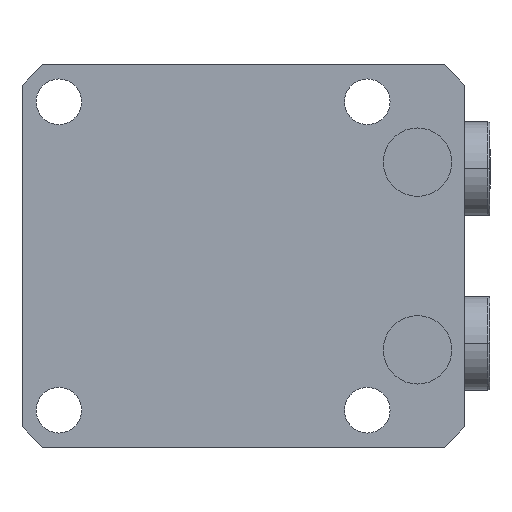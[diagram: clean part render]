
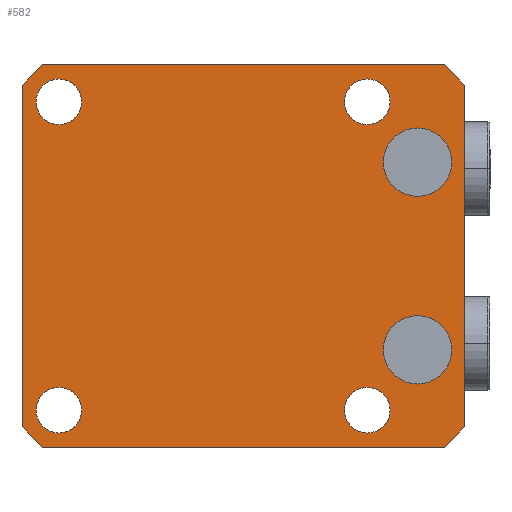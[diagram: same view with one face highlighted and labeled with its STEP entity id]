
A CAD part, front view. The second image highlights one B-rep face of the part: STEP entity #582.
In plain terms, the highlighted planar face has unit normal (0, -1, 0).
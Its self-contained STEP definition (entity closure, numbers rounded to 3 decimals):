
#216=PLANE('',#4747);
#296=FACE_BOUND('',#1082,.T.);
#297=FACE_BOUND('',#1083,.T.);
#298=FACE_BOUND('',#1084,.T.);
#299=FACE_BOUND('',#1085,.T.);
#300=FACE_BOUND('',#1086,.T.);
#301=FACE_BOUND('',#1087,.T.);
#302=FACE_BOUND('',#1088,.T.);
#582=ADVANCED_FACE('',(#296,#297,#298,#299,#300,#301,#302),#216,.T.);
#1082=EDGE_LOOP('',(#2505,#2506));
#1083=EDGE_LOOP('',(#2507,#2508));
#1084=EDGE_LOOP('',(#2509,#2510));
#1085=EDGE_LOOP('',(#2511,#2512));
#1086=EDGE_LOOP('',(#2513,#2514));
#1087=EDGE_LOOP('',(#2515,#2516));
#1088=EDGE_LOOP('',(#2517,#2518,#2519,#2520,#2521,#2522,#2523,#2524));
#1384=LINE('',#7073,#1716);
#1405=LINE('',#7456,#1737);
#1406=LINE('',#7459,#1738);
#1407=LINE('',#7461,#1739);
#1408=LINE('',#7463,#1740);
#1409=LINE('',#7464,#1741);
#1410=LINE('',#7466,#1742);
#1411=LINE('',#7468,#1743);
#1716=VECTOR('',#5626,1.);
#1737=VECTOR('',#5691,1.);
#1738=VECTOR('',#5692,1.);
#1739=VECTOR('',#5693,1.);
#1740=VECTOR('',#5694,1.);
#1741=VECTOR('',#5695,1.);
#1742=VECTOR('',#5696,1.);
#1743=VECTOR('',#5697,1.);
#2505=ORIENTED_EDGE('',*,*,#3943,.F.);
#2506=ORIENTED_EDGE('',*,*,#3814,.F.);
#2507=ORIENTED_EDGE('',*,*,#3944,.F.);
#2508=ORIENTED_EDGE('',*,*,#3818,.F.);
#2509=ORIENTED_EDGE('',*,*,#3922,.T.);
#2510=ORIENTED_EDGE('',*,*,#3852,.T.);
#2511=ORIENTED_EDGE('',*,*,#3918,.T.);
#2512=ORIENTED_EDGE('',*,*,#3860,.T.);
#2513=ORIENTED_EDGE('',*,*,#3916,.T.);
#2514=ORIENTED_EDGE('',*,*,#3864,.T.);
#2515=ORIENTED_EDGE('',*,*,#3920,.T.);
#2516=ORIENTED_EDGE('',*,*,#3856,.T.);
#2517=ORIENTED_EDGE('',*,*,#3945,.F.);
#2518=ORIENTED_EDGE('',*,*,#3946,.T.);
#2519=ORIENTED_EDGE('',*,*,#3947,.F.);
#2520=ORIENTED_EDGE('',*,*,#3948,.T.);
#2521=ORIENTED_EDGE('',*,*,#3880,.F.);
#2522=ORIENTED_EDGE('',*,*,#3949,.T.);
#2523=ORIENTED_EDGE('',*,*,#3950,.F.);
#2524=ORIENTED_EDGE('',*,*,#3951,.T.);
#3320=VERTEX_POINT('',#6912);
#3321=VERTEX_POINT('',#6914);
#3324=VERTEX_POINT('',#6921);
#3325=VERTEX_POINT('',#6923);
#3354=VERTEX_POINT('',#7001);
#3355=VERTEX_POINT('',#7002);
#3358=VERTEX_POINT('',#7010);
#3359=VERTEX_POINT('',#7011);
#3362=VERTEX_POINT('',#7019);
#3363=VERTEX_POINT('',#7020);
#3366=VERTEX_POINT('',#7028);
#3367=VERTEX_POINT('',#7029);
#3382=VERTEX_POINT('',#7074);
#3383=VERTEX_POINT('',#7075);
#3423=VERTEX_POINT('',#7457);
#3424=VERTEX_POINT('',#7458);
#3425=VERTEX_POINT('',#7460);
#3426=VERTEX_POINT('',#7462);
#3427=VERTEX_POINT('',#7465);
#3428=VERTEX_POINT('',#7467);
#3814=EDGE_CURVE('',#3320,#3321,#4330,.T.);
#3818=EDGE_CURVE('',#3324,#3325,#4332,.T.);
#3852=EDGE_CURVE('',#3354,#3355,#4346,.T.);
#3856=EDGE_CURVE('',#3358,#3359,#4348,.T.);
#3860=EDGE_CURVE('',#3362,#3363,#4350,.T.);
#3864=EDGE_CURVE('',#3366,#3367,#4352,.T.);
#3880=EDGE_CURVE('',#3382,#3383,#1384,.T.);
#3916=EDGE_CURVE('',#3367,#3366,#4358,.T.);
#3918=EDGE_CURVE('',#3363,#3362,#4360,.T.);
#3920=EDGE_CURVE('',#3359,#3358,#4362,.T.);
#3922=EDGE_CURVE('',#3355,#3354,#4364,.T.);
#3943=EDGE_CURVE('',#3321,#3320,#4367,.T.);
#3944=EDGE_CURVE('',#3325,#3324,#4368,.T.);
#3945=EDGE_CURVE('',#3423,#3424,#1405,.T.);
#3946=EDGE_CURVE('',#3423,#3425,#1406,.T.);
#3947=EDGE_CURVE('',#3426,#3425,#1407,.T.);
#3948=EDGE_CURVE('',#3426,#3383,#1408,.T.);
#3949=EDGE_CURVE('',#3382,#3427,#1409,.T.);
#3950=EDGE_CURVE('',#3428,#3427,#1410,.T.);
#3951=EDGE_CURVE('',#3428,#3424,#1411,.T.);
#4330=CIRCLE('',#4681,5.1);
#4332=CIRCLE('',#4684,5.1);
#4346=CIRCLE('',#4708,3.4);
#4348=CIRCLE('',#4711,3.4);
#4350=CIRCLE('',#4714,3.4);
#4352=CIRCLE('',#4717,3.4);
#4358=CIRCLE('',#4731,3.4);
#4360=CIRCLE('',#4734,3.4);
#4362=CIRCLE('',#4737,3.4);
#4364=CIRCLE('',#4740,3.4);
#4367=CIRCLE('',#4745,5.1);
#4368=CIRCLE('',#4746,5.1);
#4681=AXIS2_PLACEMENT_3D('',#6913,#5501,#5502);
#4684=AXIS2_PLACEMENT_3D('',#6922,#5509,#5510);
#4708=AXIS2_PLACEMENT_3D('',#7000,#5576,#5577);
#4711=AXIS2_PLACEMENT_3D('',#7009,#5584,#5585);
#4714=AXIS2_PLACEMENT_3D('',#7018,#5592,#5593);
#4717=AXIS2_PLACEMENT_3D('',#7027,#5600,#5601);
#4731=AXIS2_PLACEMENT_3D('',#7338,#5659,#5660);
#4734=AXIS2_PLACEMENT_3D('',#7341,#5665,#5666);
#4737=AXIS2_PLACEMENT_3D('',#7344,#5671,#5672);
#4740=AXIS2_PLACEMENT_3D('',#7347,#5677,#5678);
#4745=AXIS2_PLACEMENT_3D('',#7454,#5687,#5688);
#4746=AXIS2_PLACEMENT_3D('',#7455,#5689,#5690);
#4747=AXIS2_PLACEMENT_3D('',#7469,#5698,#5699);
#5501=DIRECTION('',(0.,-1.,0.));
#5502=DIRECTION('',(0.,0.,-1.));
#5509=DIRECTION('',(0.,-1.,0.));
#5510=DIRECTION('',(0.,0.,-1.));
#5576=DIRECTION('',(0.,1.,0.));
#5577=DIRECTION('',(0.,0.,-1.));
#5584=DIRECTION('',(0.,1.,0.));
#5585=DIRECTION('',(0.,0.,-1.));
#5592=DIRECTION('',(0.,1.,0.));
#5593=DIRECTION('',(0.,0.,-1.));
#5600=DIRECTION('',(0.,1.,0.));
#5601=DIRECTION('',(0.,0.,-1.));
#5626=DIRECTION('',(1.,0.,0.));
#5659=DIRECTION('',(0.,1.,0.));
#5660=DIRECTION('',(0.,0.,-1.));
#5665=DIRECTION('',(0.,1.,0.));
#5666=DIRECTION('',(0.,0.,-1.));
#5671=DIRECTION('',(0.,1.,0.));
#5672=DIRECTION('',(0.,0.,-1.));
#5677=DIRECTION('',(0.,1.,0.));
#5678=DIRECTION('',(0.,0.,-1.));
#5687=DIRECTION('',(0.,-1.,0.));
#5688=DIRECTION('',(0.,0.,-1.));
#5689=DIRECTION('',(0.,-1.,0.));
#5690=DIRECTION('',(0.,0.,-1.));
#5691=DIRECTION('',(-1.,0.,0.));
#5692=DIRECTION('',(0.707,0.,0.707));
#5693=DIRECTION('',(0.,0.,-1.));
#5694=DIRECTION('',(-0.707,0.,0.707));
#5695=DIRECTION('',(-0.707,0.,-0.707));
#5696=DIRECTION('',(0.,0.,1.));
#5697=DIRECTION('',(0.707,0.,-0.707));
#5698=DIRECTION('',(0.,-1.,0.));
#5699=DIRECTION('',(0.,0.,-1.));
#6912=CARTESIAN_POINT('',(-30.5,-71.,-8.9));
#6913=CARTESIAN_POINT('',(-30.5,-71.,-14.));
#6914=CARTESIAN_POINT('',(-30.5,-71.,-19.1));
#6921=CARTESIAN_POINT('',(-30.5,-71.,19.1));
#6922=CARTESIAN_POINT('',(-30.5,-71.,14.));
#6923=CARTESIAN_POINT('',(-30.5,-71.,8.9));
#7000=CARTESIAN_POINT('',(-23.,-71.,-23.));
#7001=CARTESIAN_POINT('',(-23.,-71.,-26.4));
#7002=CARTESIAN_POINT('',(-23.,-71.,-19.6));
#7009=CARTESIAN_POINT('',(23.,-71.,23.));
#7010=CARTESIAN_POINT('',(23.,-71.,19.6));
#7011=CARTESIAN_POINT('',(23.,-71.,26.4));
#7018=CARTESIAN_POINT('',(-23.,-71.,23.));
#7019=CARTESIAN_POINT('',(-23.,-71.,19.6));
#7020=CARTESIAN_POINT('',(-23.,-71.,26.4));
#7027=CARTESIAN_POINT('',(23.,-71.,-23.));
#7028=CARTESIAN_POINT('',(23.,-71.,-26.4));
#7029=CARTESIAN_POINT('',(23.,-71.,-19.6));
#7073=CARTESIAN_POINT('',(28.5,-71.,28.5));
#7074=CARTESIAN_POINT('',(-34.5,-71.,28.5));
#7075=CARTESIAN_POINT('',(25.5,-71.,28.5));
#7338=CARTESIAN_POINT('',(23.,-71.,-23.));
#7341=CARTESIAN_POINT('',(-23.,-71.,23.));
#7344=CARTESIAN_POINT('',(23.,-71.,23.));
#7347=CARTESIAN_POINT('',(-23.,-71.,-23.));
#7454=CARTESIAN_POINT('',(-30.5,-71.,-14.));
#7455=CARTESIAN_POINT('',(-30.5,-71.,14.));
#7456=CARTESIAN_POINT('',(28.5,-71.,-28.5));
#7457=CARTESIAN_POINT('',(25.5,-71.,-28.5));
#7458=CARTESIAN_POINT('',(-34.5,-71.,-28.5));
#7459=CARTESIAN_POINT('',(55.5,-71.,1.5));
#7460=CARTESIAN_POINT('',(28.5,-71.,-25.5));
#7461=CARTESIAN_POINT('',(28.5,-71.,-28.5));
#7462=CARTESIAN_POINT('',(28.5,-71.,25.5));
#7463=CARTESIAN_POINT('',(27.,-71.,27.));
#7464=CARTESIAN_POINT('',(-3.,-71.,60.));
#7465=CARTESIAN_POINT('',(-37.5,-71.,25.5));
#7466=CARTESIAN_POINT('',(-37.5,-71.,28.5));
#7467=CARTESIAN_POINT('',(-37.5,-71.,-25.5));
#7468=CARTESIAN_POINT('',(-31.5,-71.,-31.5));
#7469=CARTESIAN_POINT('',(28.5,-71.,28.5));
